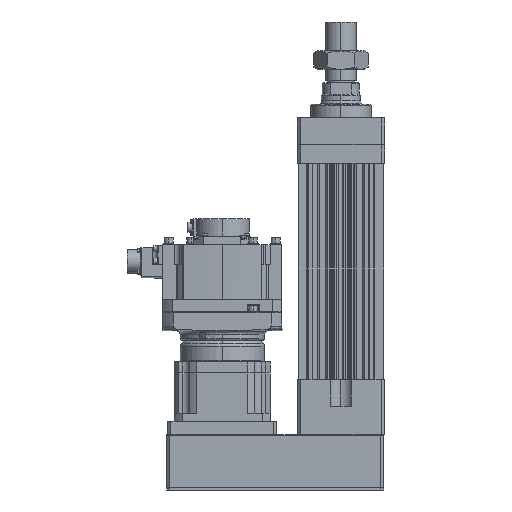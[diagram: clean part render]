
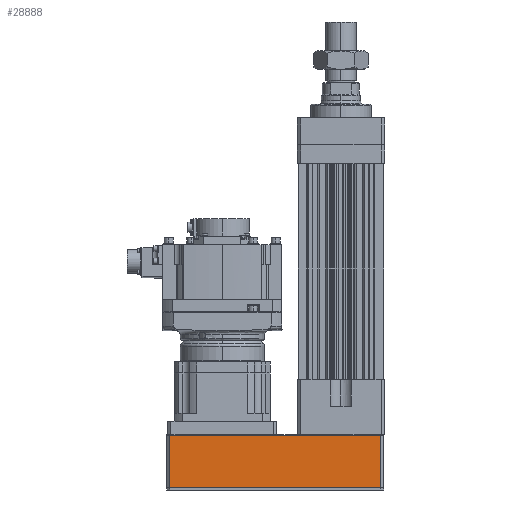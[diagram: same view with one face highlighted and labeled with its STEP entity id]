
A CAD part, left-side view. The second image highlights one B-rep face of the part: STEP entity #28888.
In plain terms, the highlighted planar face has unit normal (-1, 0, 0).
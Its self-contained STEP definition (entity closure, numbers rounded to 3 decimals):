
#430 = LINE ( 'NONE', #1408, #31176 ) ;
#440 = DIRECTION ( 'NONE',  ( 0., 1., 0. ) ) ;
#924 = ORIENTED_EDGE ( 'NONE', *, *, #34961, .T. ) ;
#1408 = CARTESIAN_POINT ( 'NONE',  ( -63.5, -59., -161. ) ) ;
#3261 = CARTESIAN_POINT ( 'NONE',  ( -63.5, 254., -82.5 ) ) ;
#5406 = CARTESIAN_POINT ( 'NONE',  ( -63.5, -59., -161. ) ) ;
#6755 = VERTEX_POINT ( 'NONE', #25722 ) ;
#8189 = VERTEX_POINT ( 'NONE', #3261 ) ;
#12369 = CARTESIAN_POINT ( 'NONE',  ( -63.5, 254., -82.5 ) ) ;
#13496 = EDGE_CURVE ( 'NONE', #24582, #8189, #50153, .T. ) ;
#15633 = LINE ( 'NONE', #18536, #46435 ) ;
#15668 = DIRECTION ( 'NONE',  ( 0., 0., 1. ) ) ;
#16242 = LINE ( 'NONE', #12369, #26899 ) ;
#18230 = CARTESIAN_POINT ( 'NONE',  ( -63.5, 254., -160.5 ) ) ;
#18536 = CARTESIAN_POINT ( 'NONE',  ( -63.5, -59., -160.5 ) ) ;
#20611 = VECTOR ( 'NONE', #15668, 1000. ) ;
#22426 = CARTESIAN_POINT ( 'NONE',  ( -63.5, -59., -82.5 ) ) ;
#22429 = EDGE_LOOP ( 'NONE', ( #44661, #32151, #924, #41518 ) ) ;
#22500 = FACE_OUTER_BOUND ( 'NONE', #22429, .T. ) ;
#24582 = VERTEX_POINT ( 'NONE', #18230 ) ;
#25722 = CARTESIAN_POINT ( 'NONE',  ( -63.5, -59., -160.5 ) ) ;
#26670 = VERTEX_POINT ( 'NONE', #22426 ) ;
#26899 = VECTOR ( 'NONE', #440, 1000. ) ;
#28888 = ADVANCED_FACE ( 'NONE', ( #22500 ), #29766, .F. ) ;
#29766 = PLANE ( 'NONE',  #50566 ) ;
#31176 = VECTOR ( 'NONE', #34006, 1000. ) ;
#32151 = ORIENTED_EDGE ( 'NONE', *, *, #33231, .T. ) ;
#33231 = EDGE_CURVE ( 'NONE', #24582, #6755, #15633, .T. ) ;
#33468 = EDGE_CURVE ( 'NONE', #26670, #8189, #16242, .T. ) ;
#34006 = DIRECTION ( 'NONE',  ( 0., 0., 1. ) ) ;
#34961 = EDGE_CURVE ( 'NONE', #6755, #26670, #430, .T. ) ;
#37675 = DIRECTION ( 'NONE',  ( 1., 0., 0. ) ) ;
#39398 = CARTESIAN_POINT ( 'NONE',  ( -63.5, 254., -161. ) ) ;
#41518 = ORIENTED_EDGE ( 'NONE', *, *, #33468, .T. ) ;
#44661 = ORIENTED_EDGE ( 'NONE', *, *, #13496, .F. ) ;
#45601 = DIRECTION ( 'NONE',  ( 0., 0., -1. ) ) ;
#46435 = VECTOR ( 'NONE', #46823, 1000. ) ;
#46823 = DIRECTION ( 'NONE',  ( 0., -1., 0. ) ) ;
#50153 = LINE ( 'NONE', #39398, #20611 ) ;
#50566 = AXIS2_PLACEMENT_3D ( 'NONE', #5406, #37675, #45601 ) ;
